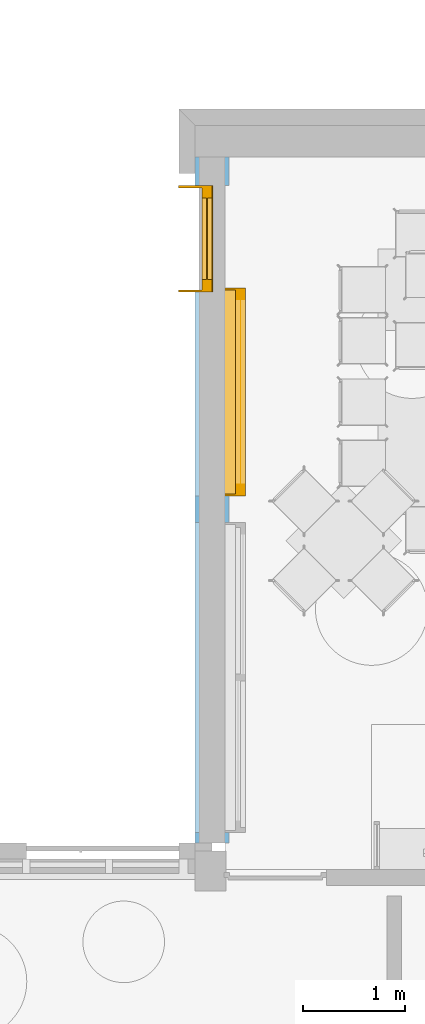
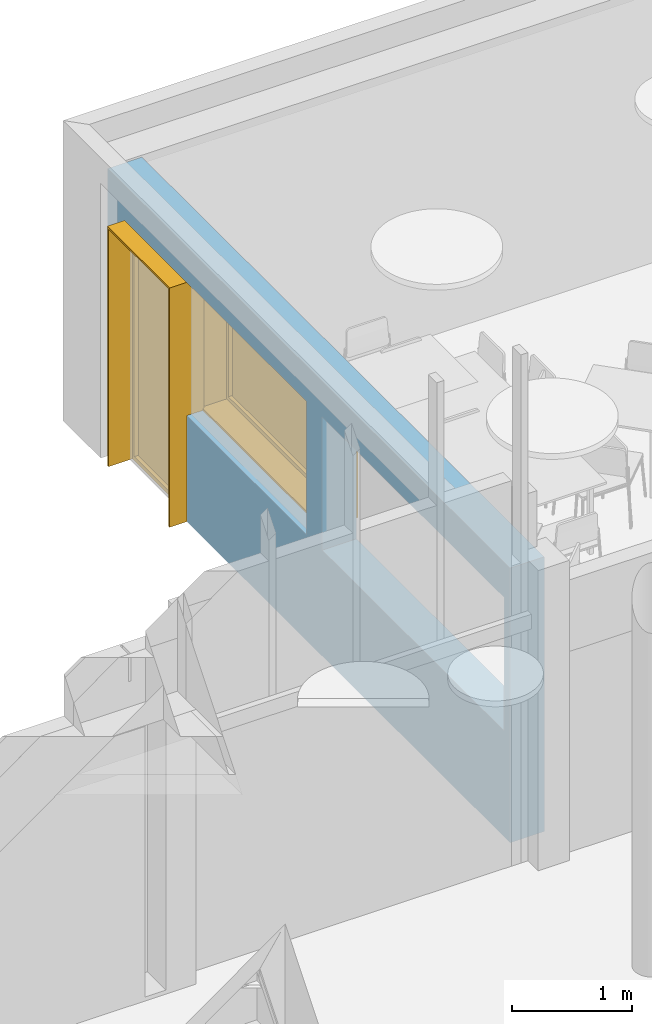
# One storey, part 44 of 64: 2 windows, 3 openings, plus 1 element that does not belong to this part.
"""IFC2X3 building model written with IfcOpenShell, lengths in metres."""

from ifc_helpers import new_model, entity, si_unit, converted_unit, derived_unit, direction, frame, frame_2d, origin, place, context, subcontext, project, spatial, rectangle, extrude, faceted_brep, source, transform, mapped, material, layer, layer_set, layer_usage, type_object, type_shapes, element, fill, save


model = new_model("IFC2X3")

# Units and contexts
model_context = context("Model", 3, precision=1e-05, world=origin(), true_north=direction((6.123031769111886e-17, 1.0)))
body_context = subcontext(model_context, "Body", "Model", "MODEL_VIEW")
ifc_project = project(units=[si_unit("LENGTHUNIT", "METRE"), si_unit("AREAUNIT", "SQUARE_METRE"), si_unit("VOLUMEUNIT", "CUBIC_METRE"), converted_unit("PLANEANGLEUNIT", "DEGREE", entity("IfcRatioMeasure", 0.017453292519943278), si_unit("PLANEANGLEUNIT", "RADIAN"), dimensions=[0, 0, 0, 0, 0, 0, 0]), si_unit("MASSUNIT", "GRAM", prefix="KILO"), derived_unit("MASSDENSITYUNIT", [(si_unit("MASSUNIT", "GRAM", prefix="KILO"), 1), (si_unit("LENGTHUNIT", "METRE"), -3)]), derived_unit("MOMENTOFINERTIAUNIT", [(si_unit("LENGTHUNIT", "METRE"), 4)]), si_unit("TIMEUNIT", "SECOND"), si_unit("FREQUENCYUNIT", "HERTZ"), si_unit("THERMODYNAMICTEMPERATUREUNIT", "DEGREE_CELSIUS"), derived_unit("THERMALTRANSMITTANCEUNIT", [(si_unit("MASSUNIT", "GRAM", prefix="KILO"), 1), (si_unit("THERMODYNAMICTEMPERATUREUNIT", "KELVIN"), -1), (si_unit("TIMEUNIT", "SECOND"), -3)]), derived_unit("THERMALCONDUCTANCEUNIT", [(si_unit("MASSUNIT", "GRAM", prefix="KILO"), 1), (si_unit("LENGTHUNIT", "METRE"), 1), (si_unit("THERMODYNAMICTEMPERATUREUNIT", "KELVIN"), -1), (si_unit("TIMEUNIT", "SECOND"), -3)]), derived_unit("VOLUMETRICFLOWRATEUNIT", [(si_unit("LENGTHUNIT", "METRE"), 3), (si_unit("TIMEUNIT", "SECOND"), -1)]), derived_unit("MASSFLOWRATEUNIT", [(si_unit("MASSUNIT", "GRAM", prefix="KILO"), 1), (si_unit("TIMEUNIT", "SECOND"), -1)]), derived_unit("ROTATIONALFREQUENCYUNIT", [(si_unit("TIMEUNIT", "SECOND"), -1)]), si_unit("ELECTRICCURRENTUNIT", "AMPERE"), si_unit("ELECTRICVOLTAGEUNIT", "VOLT"), si_unit("POWERUNIT", "WATT"), si_unit("FORCEUNIT", "NEWTON", prefix="KILO"), si_unit("ILLUMINANCEUNIT", "LUX"), si_unit("LUMINOUSFLUXUNIT", "LUMEN"), si_unit("LUMINOUSINTENSITYUNIT", "CANDELA"), derived_unit("USERDEFINED", [(si_unit("MASSUNIT", "GRAM", prefix="KILO"), -1), (si_unit("LENGTHUNIT", "METRE"), -2), (si_unit("TIMEUNIT", "SECOND"), 3), (si_unit("LUMINOUSFLUXUNIT", "LUMEN"), 1)]), derived_unit("USERDEFINED", [(si_unit("MASSUNIT", "GRAM", prefix="KILO"), 1), (si_unit("LENGTHUNIT", "METRE"), 3), (si_unit("TIMEUNIT", "SECOND"), -3), (si_unit("ELECTRICCURRENTUNIT", "AMPERE"), -2)]), derived_unit("USERDEFINED", [(si_unit("LENGTHUNIT", "METRE"), 2), (si_unit("TIMEUNIT", "SECOND"), -2)]), derived_unit("SOUNDPOWERUNIT", [(si_unit("MASSUNIT", "GRAM", prefix="KILO"), 1), (si_unit("LENGTHUNIT", "METRE"), 2), (si_unit("TIMEUNIT", "SECOND"), -3)]), derived_unit("SOUNDPRESSUREUNIT", [(si_unit("MASSUNIT", "GRAM", prefix="KILO"), 1), (si_unit("LENGTHUNIT", "METRE"), -1), (si_unit("TIMEUNIT", "SECOND"), -2)]), derived_unit("LINEARVELOCITYUNIT", [(si_unit("LENGTHUNIT", "METRE"), 1), (si_unit("TIMEUNIT", "SECOND"), -1)]), si_unit("PRESSUREUNIT", "PASCAL"), derived_unit("USERDEFINED", [(si_unit("LENGTHUNIT", "METRE"), -2), (si_unit("MASSUNIT", "GRAM", prefix="KILO"), 1), (si_unit("TIMEUNIT", "SECOND"), -2)]), derived_unit("LINEARFORCEUNIT", [(si_unit("MASSUNIT", "GRAM", prefix="KILO"), 1), (si_unit("LENGTHUNIT", "METRE"), 1), (si_unit("TIMEUNIT", "SECOND"), -2), (si_unit("LENGTHUNIT", "METRE"), -1)]), derived_unit("PLANARFORCEUNIT", [(si_unit("MASSUNIT", "GRAM", prefix="KILO"), 1), (si_unit("LENGTHUNIT", "METRE"), 1), (si_unit("TIMEUNIT", "SECOND"), -2), (si_unit("LENGTHUNIT", "METRE"), -2)]), derived_unit("SPECIFICHEATCAPACITYUNIT", [(si_unit("LENGTHUNIT", "METRE"), 2), (si_unit("TIMEUNIT", "SECOND"), -2), (si_unit("THERMODYNAMICTEMPERATUREUNIT", "KELVIN"), -1)]), derived_unit("VAPORPERMEABILITYUNIT", [(si_unit("TIMEUNIT", "SECOND"), 1), (si_unit("LENGTHUNIT", "METRE"), -1)]), derived_unit("DYNAMICVISCOSITYUNIT", [(si_unit("MASSUNIT", "GRAM", prefix="KILO"), 1), (si_unit("LENGTHUNIT", "METRE"), -1), (si_unit("TIMEUNIT", "SECOND"), -1)]), derived_unit("THERMALEXPANSIONCOEFFICIENTUNIT", [(si_unit("THERMODYNAMICTEMPERATUREUNIT", "KELVIN"), -1)])], contexts=[model_context])

# Site, building, storey
site_placement = place(None, origin())
site = spatial("IfcSite", under=ifc_project, at=site_placement, Name="Default", CompositionType="ELEMENT")
building_placement = place(site_placement, origin())
building = spatial("IfcBuilding", under=site, at=building_placement, CompositionType="ELEMENT")
storey_placement = place(building_placement, origin())
storey = spatial("IfcBuildingStorey", under=building, at=storey_placement, Name="REZ-DE-CHAUSSÉE", CompositionType="ELEMENT", Elevation=0.0)

# Wall, openings, windows
ifc_material_1 = material(Name="Métal - Fer")
ifc_layer_1 = layer(ifc_material_1, 0.037)
ifc_material_2 = material(Name="Air - Vide d'air")
ifc_layer_2 = layer(ifc_material_2, 0.035)
ifc_material_3 = material(Name="Isolation - Fibre de verre")
ifc_layer_3 = layer(ifc_material_3, 0.04)
ifc_layer_4 = layer(ifc_material_3, 0.145)
ifc_material_4 = material(Name="Bois - Panneaux de particules")
ifc_layer_5 = layer(ifc_material_4, 0.012)
ifc_layer_6 = layer(ifc_material_2, 0.048)
ifc_material_5 = material(Name="Plâtre - Plaques de plâtre")
ifc_layer_7 = layer(ifc_material_5, 0.013)
ifc_layer_set = layer_set([ifc_layer_1, ifc_layer_2, ifc_layer_3, ifc_layer_4, ifc_layer_5, ifc_layer_6, ifc_layer_7], Name="Mur de base:ABA MOB ITE bardage 330")
ifc_layer_usage = layer_usage(ifc_layer_set, "AXIS2", "NEGATIVE", 0.165)
wall_type = type_object("IfcWallType", Name="Mur de base:ABA MOB ITE bardage 330", PredefinedType="STANDARD", material=ifc_layer_set)
wall_placement = place(storey_placement, frame((120.84575227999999, 15.467209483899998, 0.0), z_axis=(0.0, 0.0, 1.0), x_axis=(0.0, 1.0, 0.0)))
wall = element("IfcWallStandardCase", 1, at=wall_placement, inside=storey, type_object=wall_type, material=ifc_layer_usage, Name="MurExt-010", ObjectType="Mur de base:ABA MOB ITE bardage 330", context=body_context, shape_type="SweptSolid", body=[
    extrude(rectangle(XDim=6.720000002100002, YDim=0.3299999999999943, at=frame_2d((3.360000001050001, 0.0), x_axis=(1.0, 0.0))), origin(), (0.0, 0.0, 1.0), 2.8),
])
opening_1_placement = place(wall_placement, frame((-15.467209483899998, 120.84575227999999, 0.0), z_axis=(0.0, 0.0, 1.0), x_axis=(0.0, -1.0, 0.0)))
opening_1 = element("IfcOpeningElement", 2, at=opening_1_placement, cuts=wall, Name="MurExt-010", ObjectType="Opening", context=body_context, shape_type="SweptSolid", body=[
    extrude(rectangle(XDim=2.44, YDim=1.0400000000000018, at=frame_2d((0.0, 2.1649348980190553e-15), x_axis=(1.0, 0.0))), frame((121.17905227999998, 21.38720948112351, 1.22), z_axis=(-1.0, 0.0, 0.0), x_axis=(0.0, 0.0, -1.0)), (0.0, 0.0, 1.0), 0.6666000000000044),
])
opening_2_placement = place(wall_placement, frame((-15.467209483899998, 120.84575227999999, 0.0), z_axis=(0.0, 0.0, 1.0), x_axis=(0.0, -1.0, 0.0)))
opening_2 = element("IfcOpeningElement", 3, at=opening_2_placement, cuts=wall, Name="MurExt-010", ObjectType="Opening", context=body_context, shape_type="SweptSolid", body=[
    extrude(rectangle(XDim=1.36, YDim=2.04, at=frame_2d((0.0, -2.1094237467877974e-15), x_axis=(1.0, 0.0))), frame((121.17905227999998, 19.88720948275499, 1.7599999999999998), z_axis=(-1.0, 0.0, 0.0), x_axis=(0.0, 0.0, -1.0)), (0.0, 0.0, 1.0), 0.6666000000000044),
])
opening_3_placement = place(wall_placement, frame((-15.467209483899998, 120.84575227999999, 0.0), z_axis=(0.0, 0.0, 1.0), x_axis=(0.0, -1.0, 0.0)))
element("IfcOpeningElement", 4, at=opening_3_placement, cuts=wall, Name="MurExt-010", ObjectType="Opening", context=body_context, shape_type="SweptSolid", body=[
    extrude(rectangle(XDim=1.36, YDim=3.04, at=frame_2d((-9.992007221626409e-16, 0.0), x_axis=(0.0, 1.0))), frame((121.17905227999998, 17.087209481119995, 1.7599999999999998), z_axis=(-1.0, 0.0, 0.0), x_axis=(0.0, -1.0, 0.0)), (0.0, 0.0, 1.0), 0.6666000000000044),
])
ifc_material_6 = material(Name="Peinture - Anthracite")
window_style_1 = type_object("IfcWindowStyle", Name="Fen-003", ConstructionType="NOTDEFINED", OperationType="NOTDEFINED", ParameterTakesPrecedence=False, Sizeable=False, material=ifc_material_6)
shared_shape_1 = source(origin(), body_context, "Body", "Brep", [
    faceted_brep([(1.0400000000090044, 0.23329999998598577, 0.0), (0.0, 0.23330000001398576, 0.0), (0.0, 0.33330000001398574, 0.0), (1.0400000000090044, 0.33329999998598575, 0.0), (1.0400000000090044, 0.23329999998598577, 2.44), (0.0, 0.23330000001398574, 2.44), (0.9900000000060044, 0.2332999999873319, 0.04000000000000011), (0.05000000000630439, 0.2333000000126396, 0.04000000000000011), (0.05000000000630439, 0.2333000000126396, 2.39), (0.9900000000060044, 0.2332999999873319, 2.39), (0.0, 0.33330000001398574, 2.44), (1.0400000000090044, 0.33329999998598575, 2.44), (0.9900000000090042, 0.3332999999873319, 0.04000000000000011), (0.9900000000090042, 0.3332999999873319, 2.39), (0.05000000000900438, 0.3333000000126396, 2.39), (0.05000000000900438, 0.3333000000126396, 0.04000000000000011), (0.12000000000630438, 0.23330000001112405, 2.32), (0.9200000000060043, 0.23329999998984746, 2.32), (0.9200000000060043, 0.23329999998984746, 0.09000000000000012), (0.12000000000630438, 0.23330000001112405, 0.09000000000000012), (0.12000000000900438, 0.3333000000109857, 2.32), (0.9200000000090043, 0.3332999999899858, 2.32), (0.9200000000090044, 0.3332999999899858, 0.09000000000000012), (0.12000000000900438, 0.3333000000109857, 0.09000000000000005), (0.9900000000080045, 0.2832999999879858, 0.04000000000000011), (0.9900000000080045, 0.2832999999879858, 2.39), (0.0500000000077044, 0.2833000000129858, 0.04000000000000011), (0.0500000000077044, 0.2833000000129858, 2.39), (0.9200000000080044, 0.2782999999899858, 0.09000000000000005), (0.12000000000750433, 0.27830000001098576, 0.09000000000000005), (0.12000000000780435, 0.28830000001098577, 0.09000000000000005), (0.9200000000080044, 0.2882999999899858, 0.09000000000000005), (0.9200000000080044, 0.2782999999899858, 2.32), (0.12000000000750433, 0.27830000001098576, 2.32), (0.12000000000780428, 0.28830000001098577, 2.32), (0.9200000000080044, 0.2882999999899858, 2.32), (1.0400000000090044, 0.33329999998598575, 0.020000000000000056), (0.0, 0.33330000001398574, 0.020000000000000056), (1.0400000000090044, 0.3432999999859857, 0.0), (1.0400000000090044, 0.3432999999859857, 0.020000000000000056), (0.0, 0.34330000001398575, 0.020000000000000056), (0.0, 0.34330000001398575, 0.0), (1.0400000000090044, 0.23329999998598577, 2.4199999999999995), (0.0, 0.23330000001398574, 2.4199999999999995), (1.0399999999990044, 0.003299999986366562, 2.4199999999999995), (0.0, 0.0033000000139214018, 2.4199999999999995), (0.0, 0.0033000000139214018, 2.44), (1.0399999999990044, 0.003299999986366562, 2.44), (1.0200000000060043, 0.23329999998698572, 0.0), (1.0200000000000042, 0.0032999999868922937, 0.0), (1.0200000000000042, 0.0032999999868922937, 2.4199999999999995), (1.0200000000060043, 0.23329999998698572, 2.4199999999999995), (1.0399999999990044, 0.003299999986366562, 0.0), (0.0, 0.0033000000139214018, 0.0), (0.020000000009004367, 0.23330000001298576, 0.0), (0.020000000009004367, 0.0033000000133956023, 0.0), (0.020000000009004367, 0.0033000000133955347, 2.4199999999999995), (0.020000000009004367, 0.23330000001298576, 2.4199999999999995)], [[[0, 1, 2, 3]], [[0, 4, 5, 1], [6, 7, 8, 9]], [[1, 5, 10, 2]], [[3, 2, 10, 11], [12, 13, 14, 15]], [[4, 0, 3, 11]], [[5, 4, 11, 10]], [[7, 6, 12, 15]], [[8, 7, 15, 14]], [[9, 8, 14, 13]], [[6, 9, 13, 12]], [[8, 7, 6, 9], [16, 17, 18, 19]], [[7, 8, 14, 15]], [[12, 6, 7, 15]], [[13, 9, 6, 12]], [[8, 9, 13, 14]], [[17, 16, 20, 21]], [[22, 18, 17, 21]], [[23, 19, 18, 22]], [[16, 19, 23, 20]], [[13, 12, 15, 14], [23, 22, 21, 20]], [[6, 24, 25, 9]], [[7, 26, 27, 8]], [[6, 24, 26, 7]], [[9, 25, 27, 8]], [[24, 12, 13, 25]], [[26, 15, 14, 27]], [[24, 12, 15, 26]], [[25, 13, 14, 27]], [[28, 29, 30, 31]], [[28, 32, 33, 29]], [[29, 33, 34, 30]], [[31, 30, 34, 35]], [[32, 28, 31, 35]], [[33, 32, 35, 34]], [[3, 36, 37, 2]], [[38, 39, 36, 3]], [[36, 39, 40, 37]], [[2, 37, 40, 41]], [[3, 2, 41, 38]], [[41, 40, 39, 38]], [[3, 2, 37, 36]], [[38, 41, 40, 39]], [[42, 43, 5, 4]], [[42, 44, 45, 43]], [[43, 45, 46, 5]], [[4, 5, 46, 47]], [[44, 42, 4, 47]], [[45, 44, 47, 46]], [[48, 49, 50, 51]], [[48, 0, 52, 49]], [[49, 52, 44, 50]], [[51, 50, 44, 42]], [[0, 48, 51, 42]], [[52, 0, 42, 44]], [[1, 53, 45, 43]], [[1, 54, 55, 53]], [[53, 55, 56, 45]], [[43, 45, 56, 57]], [[54, 1, 43, 57]], [[55, 54, 57, 56]]]),
])
type_shapes(window_style_1, [shared_shape_1])
window_1_placement = place(opening_1_placement, frame((120.51245227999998, 21.907209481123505, 0.0), z_axis=(0.0, 0.0, 1.0), x_axis=(0.0, -1.0, 0.0)))
window_1 = element("IfcWindow", 5, at=window_1_placement, inside=storey, type_object=window_style_1, material=ifc_material_6, Name="Fen-003 50724:Fen-003 50724", ObjectType="Fen-003 50724:Fen-003 50724", OverallHeight=2.44, OverallWidth=1.0400000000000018, context=body_context, shape_type="MappedRepresentation", body=[
    mapped(shared_shape_1, transform((0.0, 0.0, 0.0), scale=1.0)),
])
fill(opening_1, window_1)
window_style_2 = type_object("IfcWindowStyle", Name="Fen-003", ConstructionType="NOTDEFINED", OperationType="NOTDEFINED", ParameterTakesPrecedence=False, Sizeable=False, material=ifc_material_6)
shared_shape_2 = source(origin(), body_context, "Body", "Brep", [
    faceted_brep([(2.0399999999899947, -0.6633000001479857, 0.0), (0.0, -0.6633000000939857, 0.0), (0.0, -0.5633000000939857, 0.0), (2.0399999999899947, -0.5633000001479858, 0.0), (2.0399999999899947, -0.6633000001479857, 1.36), (0.0, -0.6633000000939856, 1.36), (1.9899999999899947, -0.6633000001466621, 0.06000000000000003), (0.04999999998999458, -0.6633000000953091, 0.06000000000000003), (0.04999999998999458, -0.6633000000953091, 1.31), (1.9899999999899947, -0.6633000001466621, 1.31), (0.0, -0.5633000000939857, 1.36), (2.0399999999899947, -0.5633000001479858, 1.36), (1.9899999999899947, -0.5633000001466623, 0.06000000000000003), (1.9899999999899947, -0.5633000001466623, 1.31), (0.049999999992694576, -0.5633000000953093, 1.31), (0.049999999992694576, -0.5633000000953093, 0.06000000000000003), (0.11999999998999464, -0.663300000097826, 1.24), (1.9199999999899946, -0.6633000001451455, 1.24), (1.9199999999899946, -0.6633000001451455, 0.11000000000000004), (0.11999999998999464, -0.663300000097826, 0.11000000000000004), (0.11999999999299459, -0.5633000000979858, 1.24), (1.9199999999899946, -0.5633000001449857, 1.24), (1.9199999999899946, -0.5633000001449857, 0.11000000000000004), (0.11999999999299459, -0.5633000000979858, 0.11000000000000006), (1.9899999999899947, -0.6133000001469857, 0.06000000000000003), (1.9899999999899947, -0.6133000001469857, 1.31), (0.049999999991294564, -0.6133000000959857, 0.06000000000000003), (0.049999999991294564, -0.6133000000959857, 1.31), (1.9199999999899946, -0.6183000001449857, 0.11000000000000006), (0.11999999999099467, -0.6183000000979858, 0.11000000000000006), (0.11999999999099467, -0.6083000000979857, 0.11000000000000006), (1.9199999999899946, -0.6083000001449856, 0.11000000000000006), (1.9199999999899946, -0.6183000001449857, 1.24), (0.11999999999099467, -0.6183000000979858, 1.24), (0.11999999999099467, -0.6083000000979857, 1.24), (1.9199999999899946, -0.6083000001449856, 1.24), (2.0399999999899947, -0.5633000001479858, 1.3399999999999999), (0.0, -0.5633000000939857, 1.3399999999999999), (2.0399999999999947, -0.3233000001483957, 1.3399999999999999), (2.0399999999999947, -0.3233000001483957, 1.36), (0.0, -0.32330000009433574, 1.36), (0.0, -0.32330000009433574, 1.3399999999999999), (2.0199999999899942, -0.5633000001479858, 0.020000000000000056), (2.0199999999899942, -0.5633000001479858, 1.3399999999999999), (2.0199999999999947, -0.32330000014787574, 1.3399999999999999), (2.0199999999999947, -0.32330000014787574, 0.020000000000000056), (2.0399999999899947, -0.5633000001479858, 0.020000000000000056), (2.0399999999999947, -0.32330000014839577, 0.020000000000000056), (0.0, -0.5633000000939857, 0.020000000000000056), (0.0, -0.32330000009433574, 0.020000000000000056), (0.019999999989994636, -0.5633000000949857, 0.020000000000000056), (0.019999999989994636, -0.5633000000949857, 1.3399999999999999), (0.019999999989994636, -0.32330000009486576, 1.3399999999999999), (0.019999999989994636, -0.32330000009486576, 0.020000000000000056), (2.0399999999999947, -0.3233000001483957, 0.0), (0.0, -0.32330000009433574, 0.0)], [[[0, 1, 2, 3]], [[0, 4, 5, 1], [6, 7, 8, 9]], [[1, 5, 10, 2]], [[3, 2, 10, 11], [12, 13, 14, 15]], [[4, 0, 3, 11]], [[5, 4, 11, 10]], [[7, 6, 12, 15]], [[8, 7, 15, 14]], [[9, 8, 14, 13]], [[6, 9, 13, 12]], [[8, 7, 6, 9], [16, 17, 18, 19]], [[7, 8, 14, 15]], [[12, 6, 7, 15]], [[13, 9, 6, 12]], [[8, 9, 13, 14]], [[17, 16, 20, 21]], [[22, 18, 17, 21]], [[23, 19, 18, 22]], [[16, 19, 23, 20]], [[13, 12, 15, 14], [23, 22, 21, 20]], [[6, 24, 25, 9]], [[7, 26, 27, 8]], [[6, 24, 26, 7]], [[9, 25, 27, 8]], [[24, 12, 13, 25]], [[26, 15, 14, 27]], [[24, 12, 15, 26]], [[25, 13, 14, 27]], [[28, 29, 30, 31]], [[28, 32, 33, 29]], [[29, 33, 34, 30]], [[31, 30, 34, 35]], [[32, 28, 31, 35]], [[33, 32, 35, 34]], [[36, 11, 10, 37]], [[38, 39, 11, 36]], [[11, 39, 40, 10]], [[37, 10, 40, 41]], [[36, 37, 41, 38]], [[41, 40, 39, 38]], [[36, 37, 10, 11]], [[38, 41, 40, 39]], [[42, 43, 44, 45]], [[46, 36, 43, 42]], [[43, 36, 38, 44]], [[45, 44, 38, 47]], [[42, 45, 47, 46]], [[47, 38, 36, 46]], [[48, 37, 41, 49]], [[50, 51, 37, 48]], [[37, 51, 52, 41]], [[49, 41, 52, 53]], [[48, 49, 53, 50]], [[53, 52, 51, 50]], [[3, 46, 48, 2]], [[54, 47, 46, 3]], [[46, 47, 49, 48]], [[2, 48, 49, 55]], [[3, 2, 55, 54]], [[55, 49, 47, 54]], [[3, 2, 48, 46]], [[54, 55, 49, 47]]]),
])
type_shapes(window_style_2, [shared_shape_2])
window_2_placement = place(opening_2_placement, frame((120.51245227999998, 18.86720948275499, 1.08), z_axis=(0.0, 0.0, 1.0), x_axis=(0.0, 1.0, 0.0)))
window_2 = element("IfcWindow", 6, at=window_2_placement, inside=storey, type_object=window_style_2, material=ifc_material_6, Name="Fen-003 51448:Fen-003 51448", ObjectType="Fen-003 51448:Fen-003 51448", OverallHeight=1.36, OverallWidth=2.0399999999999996, context=body_context, shape_type="MappedRepresentation", body=[
    mapped(shared_shape_2, transform((0.0, 0.0, 0.0), scale=1.0)),
])
fill(opening_2, window_2)

save(model, "model.ifc")
